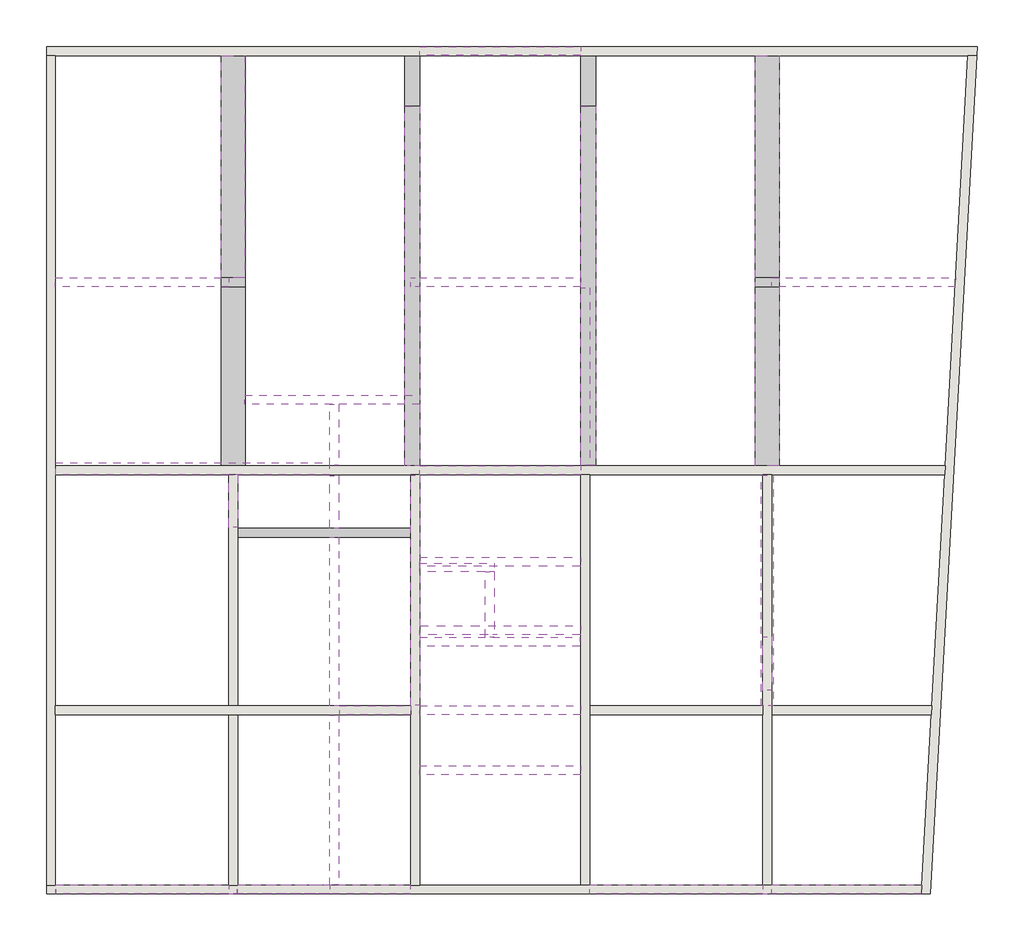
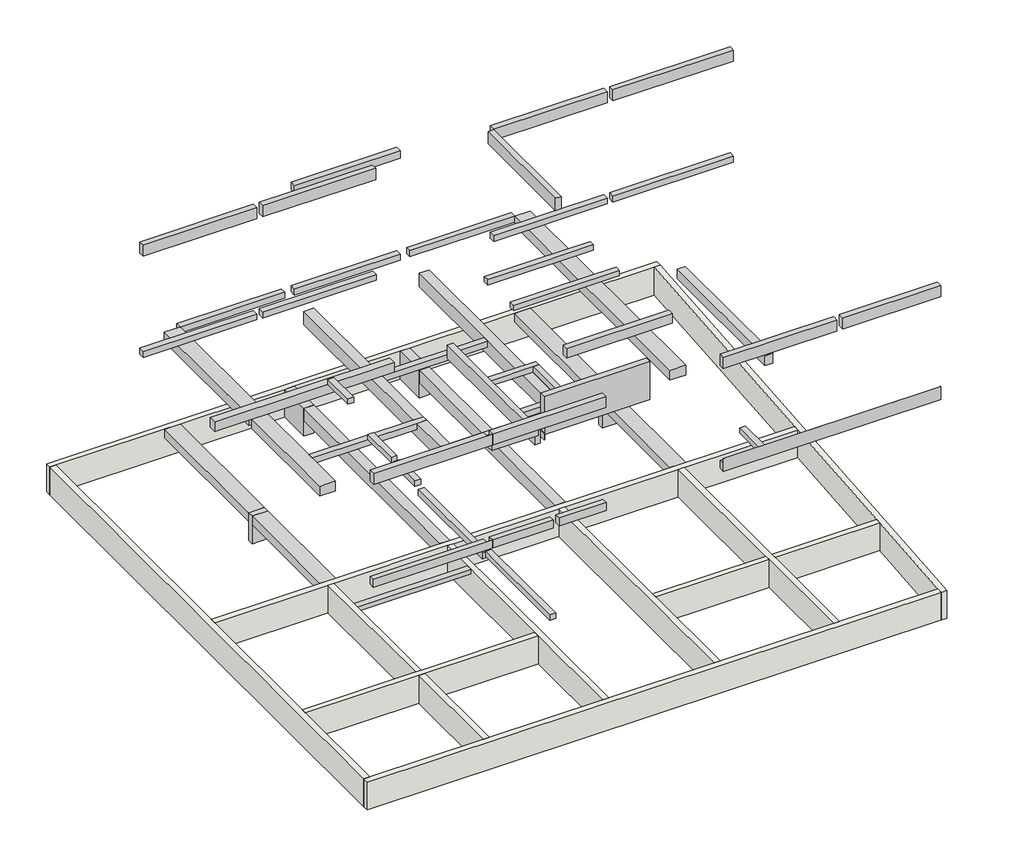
# One storey: 40 beams, 12 walls, 4 columns.
"""IFC4 building model written with IfcOpenShell, lengths in millimetres."""

from ifc_helpers import new_model, si_unit, frame, origin, place, context, project, spatial, polyline, outline, extrude, faceted_brep, element, save

model = new_model("IFC4")

# Units and contexts
model_context = context("Model", 3, world=origin())
ifc_project = project(units=[si_unit("LENGTHUNIT", "METRE", prefix="MILLI")], contexts=[model_context])

# Site, building, storey
site = spatial("IfcSite", under=ifc_project)
building = spatial("IfcBuilding", under=site)
storey = spatial("IfcBuildingStorey", under=building, Name="ARCHI fondations", Elevation=-3545.0)

# Beams
placement = place(None, origin())
element("IfcBeam", 1, ObjectType="Béton - Poutre rectangulaire : 15 x 117", at=placement, inside=storey, context=model_context, shape_type="SweptSolid", body=[
    extrude(outline(polyline([(3625.0, -1030.0228675), (2770.0, -1030.0228675), (2770.0, -1020.0228675), (2630.0, -1020.0228675), (2630.0, -1030.0228675), (2455.0, -1030.0228675), (2455.0, -1020.0228675), (2595.0, -1020.0228675), (2595.0, 1669.9771325), (3625.0, 1669.9771325), (3625.0, -1030.0228675)])), frame((0.0, -4933.2888028, 0.0), z_axis=(0.0, 1.0, 0.0), x_axis=(0.0, 0.0, 1.0)), (0.0, 0.0, 1.0), 150.0),
])
element("IfcBeam", 2, ObjectType="Béton - Poutre rectangulaire : 15 x 14", at=placement, inside=storey, context=model_context, shape_type="SweptSolid", body=[
    extrude(outline(polyline([(-2380.0228675, -753.2888028), (-2530.0228675, -753.2888028), (-2530.0228675, 271.7111972), (-2380.0228675, 271.7111972), (-2380.0228675, -753.2888028)])), frame((0.0, 0.0, -170.0), z_axis=(0.0, 0.0, 1.0), x_axis=(1.0, 0.0, 0.0)), (0.0, 0.0, 1.0), 140.0),
])
element("IfcBeam", 3, ObjectType="Béton - Poutre rectangulaire : 15 x 14", at=placement, inside=storey, context=model_context, shape_type="SweptSolid", body=[
    extrude(outline(polyline([(-2530.0228675, -923.2888028), (-2380.0228675, -923.2888028), (-2380.0228675, -1808.2888028), (-2530.0228675, -1808.2888028), (-2530.0228675, -923.2888028)])), frame((0.0, 0.0, -170.0), z_axis=(0.0, 0.0, 1.0), x_axis=(1.0, 0.0, 0.0)), (0.0, 0.0, 1.0), 140.0),
])
element("IfcBeam", 4, ObjectType="Béton - Poutre rectangulaire : 15 x 14", at=placement, inside=storey, context=model_context, shape_type="SweptSolid", body=[
    extrude(outline(polyline([(4720.5726427, -3623.2888028), (4870.5726427, -3623.2888028), (4870.5726427, -4523.2888028), (4720.5726427, -4523.2888028), (4720.5726427, -3623.2888028)])), frame((0.0, 0.0, -170.0), z_axis=(0.0, 0.0, 1.0), x_axis=(1.0, 0.0, 0.0)), (0.0, 0.0, 1.0), 140.0),
])
element("IfcBeam", 5, ObjectType="Béton - Poutre rectangulaire : 15 x 14", at=placement, inside=storey, context=model_context, shape_type="SweptSolid", body=[
    extrude(outline(polyline([(-2380.0228675, -7778.2888028), (-2530.0228675, -7778.2888028), (-2530.0228675, -4938.2888028), (-2380.0228675, -4938.2888028), (-2380.0228675, -7778.2888028)])), frame((0.0, 0.0, -170.0), z_axis=(0.0, 0.0, 1.0), x_axis=(1.0, 0.0, 0.0)), (0.0, 0.0, 1.0), 140.0),
])
element("IfcBeam", 6, ObjectType="Béton - Poutre rectangulaire : 15 x 14", at=placement, inside=storey, context=model_context, shape_type="SweptSolid", body=[
    extrude(outline(polyline([(-4080.0228675, -1788.2888028), (-4230.0228675, -1788.2888028), (-4230.0228675, -908.2888028), (-4080.0228675, -908.2888028), (-4080.0228675, -1788.2888028)])), frame((0.0, 0.0, 2630.0), z_axis=(0.0, 0.0, 1.0), x_axis=(1.0, 0.0, 0.0)), (0.0, 0.0, 1.0), 140.0),
])
element("IfcBeam", 7, ObjectType="Béton - Poutre rectangulaire : 15 x 14", at=placement, inside=storey, context=model_context, shape_type="SweptSolid", body=[
    extrude(outline(polyline([(-2370.0228675, -4933.2888028), (-2370.0228675, -4783.2888028), (-1180.0228675, -4783.2888028), (-1180.0228675, -4933.2888028), (-2370.0228675, -4933.2888028)])), frame((0.0, 0.0, 2630.0), z_axis=(0.0, 0.0, 1.0), x_axis=(1.0, 0.0, 0.0)), (0.0, 0.0, 1.0), 140.0),
])
element("IfcBeam", 8, ObjectType="Béton - Poutre rectangulaire : 15 x 14", at=placement, inside=storey, context=model_context, shape_type="Brep", body=[
    faceted_brep([(219.9771325, -2538.2888028, 2595.0), (219.9771325, -2388.2888028, 2595.0), (-1030.0228675, -2388.2888028, 2595.0), (-1030.0228675, -2538.2888028, 2595.0), (69.9771325, -2538.2888028, 2595.0), (219.9771325, -2538.2888028, 2455.0), (-1030.0228675, -2538.2888028, 2455.0), (69.9771325, -2538.2888028, 2455.0), (219.9771325, -2388.2888028, 2455.0), (-1030.0228675, -2388.2888028, 2455.0)], [[[0, 1, 2, 3, 4]], [[5, 0, 4, 3, 6, 7]], [[8, 5, 7, 6, 9]], [[1, 8, 9, 2]], [[3, 2, 9, 6]], [[1, 0, 5, 8]]]),
])
element("IfcBeam", 9, ObjectType="Béton - Poutre rectangulaire : 15 x 14", at=placement, inside=storey, context=model_context, shape_type="SweptSolid", body=[
    extrude(outline(polyline([(69.9771325, -2538.2888028), (219.9771325, -2538.2888028), (219.9771325, -3634.9362614), (69.9771325, -3634.9362614), (69.9771325, -2538.2888028)])), frame((0.0, 0.0, 2455.0), z_axis=(0.0, 0.0, 1.0), x_axis=(1.0, 0.0, 0.0)), (0.0, 0.0, 1.0), 140.0),
])
element("IfcBeam", 10, ObjectType="Béton - Poutre rectangulaire : 15 x 14", at=placement, inside=storey, context=model_context, shape_type="Brep", body=[
    faceted_brep([(-1030.0228675, -3440.7888028, 5270.0), (-1030.0228675, -3590.7888028, 5270.0), (119.9771325, -3590.7888028, 5270.0), (269.9771325, -3590.7888028, 5270.0), (1669.9771325, -3590.7888028, 5270.0), (1669.9771325, -3440.7888028, 5270.0), (119.9771325, -3440.7888028, 5270.0), (-1030.0228675, -3590.7888028, 5130.0), (1669.9771325, -3590.7888028, 5130.0), (-1030.0228675, -3440.7888028, 5130.0), (1669.9771325, -3440.7888028, 5130.0)], [[[0, 1, 2, 3, 4, 5, 6]], [[1, 7, 8, 4, 3, 2]], [[7, 9, 10, 8]], [[9, 0, 6, 5, 10]], [[1, 0, 9, 7]], [[5, 4, 8, 10]]]),
])
element("IfcBeam", 11, ObjectType="Béton - Poutre rectangulaire : 15 x 14", at=placement, inside=storey, context=model_context, shape_type="Brep", body=[
    faceted_brep([(-1030.0228675, -2290.7888028, 5270.0), (-1030.0228675, -2440.7888028, 5270.0), (269.9771325, -2440.7888028, 5270.0), (1669.9771325, -2440.7888028, 5270.0), (1669.9771325, -2290.7888028, 5270.0), (269.9771325, -2290.7888028, 5270.0), (-1030.0228675, -2440.7888028, 5130.0), (1669.9771325, -2440.7888028, 5130.0), (-1030.0228675, -2290.7888028, 5130.0), (1669.9771325, -2290.7888028, 5130.0)], [[[0, 1, 2, 3, 4, 5]], [[1, 6, 7, 3, 2]], [[6, 8, 9, 7]], [[8, 0, 5, 4, 9]], [[1, 0, 8, 6]], [[4, 3, 7, 9]]]),
])
element("IfcBeam", 12, ObjectType="Béton - Poutre rectangulaire : 15 x 30", at=placement, inside=storey, context=model_context, shape_type="SweptSolid", body=[
    extrude(outline(polyline([(-1185.0228675, -1808.2888028), (-1185.0228675, -1958.2888028), (-4075.0228675, -1958.2888028), (-4075.0228675, -1808.2888028), (-1185.0228675, -1808.2888028)])), frame((0.0, 0.0, -2925.0), z_axis=(0.0, 0.0, 1.0), x_axis=(1.0, 0.0, 0.0)), (0.0, 0.0, 1.0), 130.0),
])
element("IfcBeam", 13, ObjectType="Béton - Poutre rectangulaire : 15 x 30", at=placement, inside=storey, context=model_context, shape_type="Brep", body=[
    faceted_brep([(-1180.0228675, 2241.7111972, -330.0), (-1030.0228675, 2241.7111972, -330.0), (1669.9771325, 2241.7111972, -330.0), (1669.9771325, 2241.7111972, -170.0), (-1030.0228675, 2241.7111972, -170.0), (-1180.0228675, 2241.7111972, -170.0), (-1180.0228675, 2391.7111972, -330.0), (-1030.0228675, 2391.7111972, -330.0), (1669.9771325, 2391.7111972, -330.0), (-1180.0228675, 2391.7111972, -170.0), (-1030.0228675, 2391.7111972, -170.0), (1669.9771325, 2391.7111972, -170.0)], [[[0, 1, 2, 3, 4, 5]], [[0, 6, 7, 8, 2, 1]], [[8, 7, 6, 9, 10, 11]], [[6, 0, 5, 9]], [[2, 8, 11, 3]], [[5, 4, 3, 11, 10, 9]]]),
])
element("IfcBeam", 14, ObjectType="Béton - Poutre rectangulaire : 15 x 30", at=placement, inside=storey, context=model_context, shape_type="Brep", body=[
    faceted_brep([(-1030.0228675, 421.7111972, -330.0), (-1280.0228675, 421.7111972, -330.0), (-3955.0228675, 421.7111972, -330.0), (-3955.0228675, 421.7111972, -170.0), (-1280.0228675, 421.7111972, -170.0), (-1030.0228675, 421.7111972, -170.0), (-3955.0228675, 271.7111972, -330.0), (-1030.0228675, 271.7111972, -330.0), (-1280.0228675, 271.7111972, -330.0), (-1030.0228675, 271.7111972, -170.0), (-1280.0228675, 271.7111972, -170.0), (-3955.0228675, 271.7111972, -170.0)], [[[0, 1, 2, 3, 4, 5]], [[6, 2, 1, 0, 7, 8]], [[6, 8, 7, 9, 10, 11]], [[2, 6, 11, 3]], [[7, 0, 5, 9]], [[5, 4, 3, 11, 10, 9]]]),
])
element("IfcBeam", 15, ObjectType="Béton - Poutre rectangulaire : 15 x 30", at=placement, inside=storey, context=model_context, shape_type="SweptSolid", body=[
    extrude(outline(polyline([(1919.9771325, 6116.7111972), (1919.9771325, 6266.7111972), (4595.5726427, 6266.7111972), (4595.5726427, 6116.7111972), (1919.9771325, 6116.7111972)])), frame((0.0, 0.0, -330.0), z_axis=(0.0, 0.0, 1.0), x_axis=(1.0, 0.0, 0.0)), (0.0, 0.0, 1.0), 160.0),
    extrude(outline(polyline([(-3955.0228675, 6116.7111972), (-3955.0228675, 6266.7111972), (-1280.0228675, 6266.7111972), (-1280.0228675, 6116.7111972), (-3955.0228675, 6116.7111972)])), frame((0.0, 0.0, -330.0), z_axis=(0.0, 0.0, 1.0), x_axis=(1.0, 0.0, 0.0)), (0.0, 0.0, 1.0), 160.0),
    extrude(outline(polyline([(1669.9771325, 6266.7111972), (1669.9771325, 6116.7111972), (-1030.0228675, 6116.7111972), (-1030.0228675, 6266.7111972), (1669.9771325, 6266.7111972)])), frame((0.0, 0.0, -330.0), z_axis=(0.0, 0.0, 1.0), x_axis=(1.0, 0.0, 0.0)), (0.0, 0.0, 1.0), 160.0),
])
element("IfcBeam", 16, ObjectType="Béton - Poutre rectangulaire : 15 x 30", at=placement, inside=storey, context=model_context, shape_type="SweptSolid", body=[
    extrude(outline(polyline([(-1030.0228675, -908.2888028), (-1030.0228675, -758.2888028), (1669.9771325, -758.2888028), (1669.9771325, -908.2888028), (-1030.0228675, -908.2888028)])), frame((0.0, 0.0, -330.0), z_axis=(0.0, 0.0, 1.0), x_axis=(1.0, 0.0, 0.0)), (0.0, 0.0, 1.0), 160.0),
])
element("IfcBeam", 17, ObjectType="Béton - Poutre rectangulaire : 15 x 30", at=placement, inside=storey, context=model_context, shape_type="SweptSolid", body=[
    extrude(outline(polyline([(-2380.0228675, -4783.2888028), (-2530.0228675, -4783.2888028), (-2530.0228675, -1958.2888028), (-2380.0228675, -1958.2888028), (-2380.0228675, -4783.2888028)])), frame((0.0, 0.0, -330.0), z_axis=(0.0, 0.0, 1.0), x_axis=(1.0, 0.0, 0.0)), (0.0, 0.0, 1.0), 160.0),
])
element("IfcBeam", 18, ObjectType="Béton - Poutre rectangulaire : 15 x 30", at=placement, inside=storey, context=model_context, shape_type="SweptSolid", body=[
    extrude(outline(polyline([(2595.0, -1030.0228675), (2295.0, -1030.0228675), (2295.0, 1654.9771325), (2455.0, 1654.9771325), (2455.0, -1020.0228675), (2595.0, -1020.0228675), (2595.0, -1030.0228675)])), frame((0.0, -3784.9362614, 0.0), z_axis=(0.0, 1.0, 0.0), x_axis=(0.0, 0.0, 1.0)), (0.0, 0.0, 1.0), 150.0),
])
element("IfcBeam", 19, ObjectType="Béton - Poutre rectangulaire : 15 x 30", at=placement, inside=storey, context=model_context, shape_type="SweptSolid", body=[
    extrude(outline(polyline([(-4230.0228675, 2391.7111972), (-4230.0228675, 2241.7111972), (-7130.0228675, 2241.7111972), (-7130.0228675, 2391.7111972), (-4230.0228675, 2391.7111972)])), frame((0.0, 0.0, 2470.0), z_axis=(0.0, 0.0, 1.0), x_axis=(1.0, 0.0, 0.0)), (0.0, 0.0, 1.0), 160.0),
    extrude(outline(polyline([(-4080.0228675, 2241.7111972), (-4080.0228675, 2391.7111972), (-1180.0228675, 2391.7111972), (-1180.0228675, 2241.7111972), (-4080.0228675, 2241.7111972)])), frame((0.0, 0.0, 2470.0), z_axis=(0.0, 0.0, 1.0), x_axis=(1.0, 0.0, 0.0)), (0.0, 0.0, 1.0), 160.0),
])
element("IfcBeam", 20, ObjectType="Béton - Poutre rectangulaire : 15 x 30", at=placement, inside=storey, context=model_context, shape_type="SweptSolid", body=[
    extrude(outline(polyline([(7954.5541344, 2391.7111972), (7946.2241424, 2241.7111972), (4870.5726427, 2241.7111972), (4870.5726427, 2391.7111972), (7954.5541344, 2391.7111972)])), frame((0.0, 0.0, 2470.0), z_axis=(0.0, 0.0, 1.0), x_axis=(1.0, 0.0, 0.0)), (0.0, 0.0, 1.0), 160.0),
    extrude(outline(polyline([(4720.5726427, 2391.7111972), (4720.5726427, 2241.7111972), (1819.9771325, 2241.7111972), (1819.9771325, 2391.7111972), (4720.5726427, 2391.7111972)])), frame((0.0, 0.0, 2470.0), z_axis=(0.0, 0.0, 1.0), x_axis=(1.0, 0.0, 0.0)), (0.0, 0.0, 1.0), 160.0),
])
element("IfcBeam", 21, ObjectType="Béton - Poutre rectangulaire : 15 x 30", at=placement, inside=storey, context=model_context, shape_type="SweptSolid", body=[
    extrude(outline(polyline([(1824.9771325, 2241.7111972), (1824.9771325, 2391.7111972), (4720.5726427, 2391.7111972), (4720.5726427, 2241.7111972), (1824.9771325, 2241.7111972)])), frame((0.0, 0.0, 5200.0), z_axis=(0.0, 0.0, 1.0), x_axis=(1.0, 0.0, 0.0)), (0.0, 0.0, 1.0), 300.0),
    extrude(outline(polyline([(7954.5541344, 2391.7111972), (7946.2241424, 2241.7111972), (4870.5726427, 2241.7111972), (4870.5726427, 2391.7111972), (7954.5541344, 2391.7111972)])), frame((0.0, 0.0, 5200.0), z_axis=(0.0, 0.0, 1.0), x_axis=(1.0, 0.0, 0.0)), (0.0, 0.0, 1.0), 300.0),
])
element("IfcBeam", 22, ObjectType="Béton - Poutre rectangulaire : 15 x 30", at=placement, inside=storey, context=model_context, shape_type="SweptSolid", body=[
    extrude(outline(polyline([(-1190.0228675, 2391.7111972), (-1190.0228675, 2241.7111972), (-4080.0228675, 2241.7111972), (-4080.0228675, 2391.7111972), (-1190.0228675, 2391.7111972)])), frame((0.0, 0.0, 5200.0), z_axis=(0.0, 0.0, 1.0), x_axis=(1.0, 0.0, 0.0)), (0.0, 0.0, 1.0), 300.0),
    extrude(outline(polyline([(-7130.0228675, 2241.7111972), (-7130.0228675, 2391.7111972), (-4230.0228675, 2391.7111972), (-4230.0228675, 2241.7111972), (-7130.0228675, 2241.7111972)])), frame((0.0, 0.0, 5200.0), z_axis=(0.0, 0.0, 1.0), x_axis=(1.0, 0.0, 0.0)), (0.0, 0.0, 1.0), 300.0),
])
element("IfcBeam", 23, ObjectType="Béton - Poutre rectangulaire : 15 x 30", at=placement, inside=storey, context=model_context, shape_type="SweptSolid", body=[
    extrude(outline(polyline([(7375.5726427, -7783.2888028), (7375.5726427, -7933.2888028), (4870.5726427, -7933.2888028), (4870.5726427, -7783.2888028), (7375.5726427, -7783.2888028)])), frame((0.0, 0.0, 5200.0), z_axis=(0.0, 0.0, 1.0), x_axis=(1.0, 0.0, 0.0)), (0.0, 0.0, 1.0), 300.0),
    extrude(outline(polyline([(1820.5726427, -7933.2888028), (1820.5726427, -7783.2888028), (4720.5726427, -7783.2888028), (4720.5726427, -7933.2888028), (1820.5726427, -7933.2888028)])), frame((0.0, 0.0, 5200.0), z_axis=(0.0, 0.0, 1.0), x_axis=(1.0, 0.0, 0.0)), (0.0, 0.0, 1.0), 300.0),
])
element("IfcBeam", 24, ObjectType="Béton - Poutre rectangulaire : 15 x 30", at=placement, inside=storey, context=model_context, shape_type="SweptSolid", body=[
    extrude(outline(polyline([(-7120.0228675, -7933.2888028), (-7120.0228675, -7783.2888028), (-4230.0228675, -7783.2888028), (-4230.0228675, -7932.5195269), (-4080.0228675, -7932.5195269), (-4080.0228675, -7783.2888028), (-1185.0228675, -7783.2888028), (-1185.0228675, -7933.2888028), (-7120.0228675, -7933.2888028)])), frame((0.0, 0.0, 5200.0), z_axis=(0.0, 0.0, 1.0), x_axis=(1.0, 0.0, 0.0)), (0.0, 0.0, 1.0), 300.0),
])
element("IfcBeam", 25, ObjectType="Béton - Poutre rectangulaire : 15 x 33", at=placement, inside=storey, context=model_context, shape_type="SweptSolid", body=[
    extrude(outline(polyline([(1819.9771325, -748.2888028), (1669.9771325, -748.2888028), (1669.9771325, 2226.7111972), (1819.9771325, 2226.7111972), (1819.9771325, -748.2888028)])), frame((0.0, 0.0, 5170.0), z_axis=(0.0, 0.0, 1.0), x_axis=(1.0, 0.0, 0.0)), (0.0, 0.0, 1.0), 330.0),
])
element("IfcBeam", 26, ObjectType="Béton - Poutre rectangulaire : 15 x 35", at=placement, inside=storey, context=model_context, shape_type="SweptSolid", body=[
    extrude(outline(polyline([(1669.9771325, 6266.7111972), (1669.9771325, 6116.7111972), (-1030.0228675, 6116.7111972), (-1030.0228675, 6266.7111972), (1669.9771325, 6266.7111972)])), frame((0.0, 0.0, 2420.0), z_axis=(0.0, 0.0, 1.0), x_axis=(1.0, 0.0, 0.0)), (0.0, 0.0, 1.0), 210.0),
])
element("IfcBeam", 27, ObjectType="Béton - Poutre rectangulaire : 15 x 35", at=placement, inside=storey, context=model_context, shape_type="SweptSolid", body=[
    extrude(outline(polyline([(-7125.0228675, -7933.2888028), (-7125.0228675, -7783.2888028), (-4230.7072273, -7783.2888028), (-4230.7072273, -7932.248718), (-4080.7072273, -7932.248718), (-4080.7072273, -7783.2888028), (-2530.0228675, -7783.2888028), (-2530.0228675, -7933.2888028), (-7125.0228675, -7933.2888028)])), frame((0.0, 0.0, 2420.0), z_axis=(0.0, 0.0, 1.0), x_axis=(1.0, 0.0, 0.0)), (0.0, 0.0, 1.0), 210.0),
    extrude(outline(polyline([(-1180.0228675, -7783.2888028), (-1180.0228675, -7933.2888028), (-2380.0228675, -7933.2888028), (-2380.0228675, -7783.2888028), (-1180.0228675, -7783.2888028)])), frame((0.0, 0.0, 2420.0), z_axis=(0.0, 0.0, 1.0), x_axis=(1.0, 0.0, 0.0)), (0.0, 0.0, 1.0), 210.0),
])
element("IfcBeam", 28, ObjectType="Béton - Poutre rectangulaire : 15 x 35", at=placement, inside=storey, context=model_context, shape_type="Brep", body=[
    faceted_brep([(7375.5726427, -7933.2888028, 2770.0), (7375.5726427, -7933.2888028, 2420.0), (7375.5726427, -7783.2888028, 2420.0), (7375.5726427, -7783.2888028, 2630.0), (7375.5726427, -7931.4125381, 2630.0), (7375.5726427, -7931.4125381, 2770.0), (4870.5726427, -7931.4125381, 2770.0), (4870.5726427, -7932.4917142, 2770.0), (4720.5726427, -7932.4917142, 2770.0), (4720.5726427, -7931.4125381, 2770.0), (1819.9771325, -7931.4125381, 2770.0), (1819.9771325, -7933.2888028, 2770.0), (1819.9771325, -7933.2888028, 2420.0), (1819.9771325, -7783.2888028, 2420.0), (4720.5726427, -7783.2888028, 2420.0), (4720.5726427, -7932.4917142, 2420.0), (4870.5726427, -7932.4917142, 2420.0), (4870.5726427, -7783.2888028, 2420.0), (4870.5726427, -7783.2888028, 2630.0), (4870.5726427, -7931.4125381, 2630.0), (1819.9771325, -7931.4125381, 2630.0), (1819.9771325, -7783.2888028, 2630.0), (4720.5726427, -7783.2888028, 2630.0), (4720.5726427, -7931.4125381, 2630.0)], [[[0, 1, 2, 3, 4, 5]], [[0, 5, 6, 7, 8, 9, 10, 11]], [[1, 0, 11, 12]], [[2, 1, 12, 13, 14, 15, 16, 17]], [[3, 2, 17, 18]], [[4, 3, 18, 19]], [[5, 4, 19, 6]], [[11, 10, 20, 21, 13, 12]], [[8, 15, 14, 22, 23, 9]], [[15, 8, 7, 16]], [[16, 7, 6, 19, 18, 17]], [[13, 21, 22, 14]], [[21, 20, 23, 22]], [[20, 10, 9, 23]]]),
])
element("IfcBeam", 29, ObjectType="Béton - Poutre rectangulaire : 15 x 40", at=placement, inside=storey, context=model_context, shape_type="SweptSolid", body=[
    extrude(outline(polyline([(1669.9771325, -5933.2888028), (-1030.0228675, -5933.2888028), (-1030.0228675, -5783.2888028), (1669.9771325, -5783.2888028), (1669.9771325, -5933.2888028)])), frame((0.0, 0.0, 5270.0), z_axis=(0.0, 0.0, 1.0), x_axis=(1.0, 0.0, 0.0)), (0.0, 0.0, 1.0), 260.0),
])
element("IfcBeam", 30, ObjectType="Béton - Poutre rectangulaire : 15 x 50", at=placement, inside=storey, context=model_context, shape_type="SweptSolid", body=[
    extrude(outline(polyline([(-1180.0228675, -913.2888028), (-1030.0228675, -913.2888028), (-1030.0228675, -4768.2888028), (-1180.0228675, -4768.2888028), (-1180.0228675, -913.2888028)])), frame((0.0, 0.0, 2270.0), z_axis=(0.0, 0.0, 1.0), x_axis=(1.0, 0.0, 0.0)), (0.0, 0.0, 1.0), 360.0),
])
element("IfcBeam", 31, ObjectType="Béton - Poutre rectangulaire : 20 x 40", at=placement, inside=storey, context=model_context, shape_type="Brep", body=[
    faceted_brep([(4895.5726427, -913.2888028, 2370.0), (4695.5726427, -913.2888028, 2370.0), (4695.5726427, -913.2888028, 2630.0), (4895.5726427, -913.2888028, 2630.0), (4895.5726427, -4783.2888028, 2370.0), (4895.5726427, -4783.2888028, 2630.0), (4739.9771325, -4783.2888028, 2370.0), (4695.5726427, -4783.2888028, 2370.0), (4695.5726427, -4783.2888028, 2630.0)], [[[0, 1, 2, 3]], [[4, 0, 3, 5]], [[1, 0, 4, 6, 7]], [[1, 7, 8, 2]], [[4, 5, 8, 7, 6]], [[3, 2, 8, 5]]]),
])
element("IfcBeam", 32, ObjectType="Béton - Poutre rectangulaire : 20 x 40", at=placement, inside=storey, context=model_context, shape_type="SweptSolid", body=[
    extrude(outline(polyline([(-2540.0228675, -708.2888028), (-2540.0228675, -908.2888028), (-7125.0228675, -908.2888028), (-7125.0228675, -708.2888028), (-2540.0228675, -708.2888028)])), frame((0.0, 0.0, 2370.0), z_axis=(0.0, 0.0, 1.0), x_axis=(1.0, 0.0, 0.0)), (0.0, 0.0, 1.0), 260.0),
])
element("IfcBeam", 33, ObjectType="Béton - Poutre rectangulaire : 25 x 50", at=placement, inside=storey, context=model_context, shape_type="SweptSolid", body=[
    extrude(outline(polyline([(-1030.0228675, -752.7360346), (-1280.0228675, -752.7360346), (-1280.0228675, 5266.8149663), (-1030.0228675, 5266.8149663), (-1030.0228675, -752.7360346)])), frame((0.0, 0.0, -3125.0), z_axis=(0.0, 0.0, 1.0), x_axis=(1.0, 0.0, 0.0)), (0.0, 0.0, 1.0), 330.0),
])
element("IfcBeam", 34, ObjectType="Béton - Poutre rectangulaire : 25 x 50", at=placement, inside=storey, context=model_context, shape_type="SweptSolid", body=[
    extrude(outline(polyline([(1919.9771325, -758.2888028), (1669.9771325, -758.2888028), (1669.9771325, 5266.7111972), (1919.9771325, 5266.7111972), (1919.9771325, -758.2888028)])), frame((0.0, 0.0, -3125.0), z_axis=(0.0, 0.0, 1.0), x_axis=(1.0, 0.0, 0.0)), (0.0, 0.0, 1.0), 330.0),
])
element("IfcBeam", 35, ObjectType="Béton - Poutre rectangulaire : 25 x 50", at=placement, inside=storey, context=model_context, shape_type="Brep", body=[
    faceted_brep([(1669.9771325, -753.2888028, -530.0), (1919.9771325, -753.2888028, -530.0), (1919.9771325, -753.2888028, -170.0), (1669.9771325, -753.2888028, -170.0), (1669.9771325, 5266.7111972, -530.0), (1669.9771325, 2241.7111972, -170.0), (1669.9771325, 2391.7111972, -170.0), (1669.9771325, 5266.7111972, -170.0), (1919.9771325, 5266.7111972, -530.0), (1919.9771325, 5266.7111972, -170.0)], [[[0, 1, 2, 3]], [[4, 0, 3, 5, 6, 7]], [[1, 0, 4, 8]], [[1, 8, 9, 2]], [[8, 4, 7, 9]], [[3, 2, 9, 7, 6, 5]]]),
])
element("IfcBeam", 36, ObjectType="Béton - Poutre rectangulaire : 25 x 50", at=placement, inside=storey, context=model_context, shape_type="Brep", body=[
    faceted_brep([(-1280.0228675, 271.7111972, -330.0), (-1280.0228675, 421.7111972, -330.0), (-1280.0228675, 421.7111972, -170.0), (-1280.0228675, 5266.7111972, -170.0), (-1280.0228675, 5266.7111972, -530.0), (-1280.0228675, -758.2888028, -530.0), (-1280.0228675, -758.2888028, -170.0), (-1280.0228675, 271.7111972, -170.0), (-1030.0228675, 5266.7111972, -530.0), (-1030.0228675, -758.2888028, -530.0), (-1030.0228675, 2391.7111972, -330.0), (-1030.0228675, 2241.7111972, -330.0), (-1030.0228675, 2241.7111972, -170.0), (-1030.0228675, 421.7111972, -170.0), (-1030.0228675, 421.7111972, -330.0), (-1030.0228675, 271.7111972, -330.0), (-1030.0228675, 271.7111972, -170.0), (-1030.0228675, -758.2888028, -170.0), (-1030.0228675, 5266.7111972, -170.0), (-1030.0228675, 2391.7111972, -170.0), (-1180.0228675, 2241.7111972, -330.0), (-1180.0228675, 2241.7111972, -170.0), (-1180.0228675, 2391.7111972, -330.0), (-1180.0228675, 2391.7111972, -170.0), (-1182.4157758, -758.2888028, -170.0)], [[[0, 1, 2, 3, 4, 5, 6, 7]], [[4, 8, 9, 5]], [[10, 11, 12, 13, 14, 15, 16, 17, 9, 8, 18, 19]], [[8, 4, 3, 18]], [[11, 20, 21, 12]], [[22, 20, 11, 10]], [[22, 10, 19, 23]], [[20, 22, 23, 21]], [[1, 14, 13, 2]], [[14, 1, 0, 15]], [[15, 0, 7, 16]], [[6, 5, 9, 17, 24]], [[3, 2, 13, 12, 21, 23, 19, 18]], [[7, 6, 24, 17, 16]]]),
])
element("IfcBeam", 37, ObjectType="Béton - Poutre rectangulaire : 40 x 40", at=placement, inside=storey, context=model_context, shape_type="SweptSolid", body=[
    extrude(outline(polyline([(-4350.8374999, 6111.7111972), (-3950.8374999, 6111.7111972), (-3950.8374999, 2391.7111972), (-4350.8374999, 2391.7111972), (-4350.8374999, 6111.7111972)])), frame((0.0, 0.0, -3025.0), z_axis=(0.0, 0.0, 1.0), x_axis=(1.0, 0.0, 0.0)), (0.0, 0.0, 1.0), 230.0),
    extrude(outline(polyline([(-3950.8374999, -758.2888028), (-4350.8374999, -758.2888028), (-4350.8374999, 2241.7111972), (-3950.8374999, 2241.7111972), (-3950.8374999, -758.2888028)])), frame((0.0, 0.0, -3025.0), z_axis=(0.0, 0.0, 1.0), x_axis=(1.0, 0.0, 0.0)), (0.0, 0.0, 1.0), 230.0),
])
element("IfcBeam", 38, ObjectType="Béton - Poutre rectangulaire : 40 x 40", at=placement, inside=storey, context=model_context, shape_type="SweptSolid", body=[
    extrude(outline(polyline([(4595.5726427, 6111.7111972), (4995.5726427, 6111.7111972), (4995.5726427, 2391.7111972), (4595.5726427, 2391.7111972), (4595.5726427, 6111.7111972)])), frame((0.0, 0.0, -3025.0), z_axis=(0.0, 0.0, 1.0), x_axis=(1.0, 0.0, 0.0)), (0.0, 0.0, 1.0), 230.0),
    extrude(outline(polyline([(4595.5726427, 2241.7111972), (4995.5726427, 2241.7111972), (4995.5726427, -758.2888028), (4595.5726427, -758.2888028), (4595.5726427, 2241.7111972)])), frame((0.0, 0.0, -3025.0), z_axis=(0.0, 0.0, 1.0), x_axis=(1.0, 0.0, 0.0)), (0.0, 0.0, 1.0), 230.0),
])
element("IfcBeam", 39, ObjectType="Béton - Poutre rectangulaire : 40 x 40", at=placement, inside=storey, context=model_context, shape_type="Brep", body=[
    faceted_brep([(-4355.0228675, -758.2888028, -430.0), (-4355.0228675, -758.2888028, -170.0), (-4355.0228675, 2241.7111972, -170.0), (-4355.0228675, 2241.7111972, -430.0), (-3955.0228675, -758.2888028, -430.0), (-3955.0228675, 2241.7111972, -430.0), (-3955.0228675, -758.2888028, -170.0), (-3955.0228675, 2241.7111972, -170.0), (-3955.0228675, 421.7111972, -170.0), (-3955.0228675, 271.7111972, -170.0)], [[[0, 1, 2, 3]], [[4, 0, 3, 5]], [[6, 4, 5, 7, 8, 9]], [[1, 0, 4, 6]], [[3, 2, 7, 5]], [[1, 6, 9, 8, 7, 2]]]),
    faceted_brep([(-3955.0228675, 6116.7111972, -170.0), (-4355.0228675, 6116.7111972, -170.0), (-4355.0228675, 2391.7111972, -170.0), (-3955.0228675, 2391.7111972, -170.0), (-4355.0228675, 6116.7111972, -430.0), (-3955.0228675, 6116.7111972, -430.0), (-4355.0228675, 2391.7111972, -430.0), (-3955.0228675, 2391.7111972, -430.0)], [[[0, 1, 2, 3]], [[4, 1, 0, 5]], [[2, 6, 7, 3]], [[1, 4, 6, 2]], [[4, 5, 7, 6]], [[5, 0, 3, 7]]]),
])
element("IfcBeam", 40, ObjectType="Béton - Poutre rectangulaire : 40 x 40", at=placement, inside=storey, context=model_context, shape_type="Brep", body=[
    faceted_brep([(4595.5726427, -758.2888028, -430.0), (4595.5726427, -758.2888028, -170.0), (4595.5726427, 6116.7111972, -170.0), (4595.5726427, 6116.7111972, -430.0), (4595.5726427, 2391.7111972, -430.0), (4595.5726427, 2241.7111972, -430.0), (4995.5726427, -758.2888028, -430.0), (4995.5726427, 6116.7111972, -430.0), (4995.5726427, 2391.7111972, -430.0), (4995.5726427, 2241.7111972, -430.0), (4995.5726427, -758.2888028, -170.0), (4995.5726427, 6116.7111972, -170.0)], [[[0, 1, 2, 3, 4, 5]], [[6, 0, 5, 4, 3, 7, 8, 9]], [[10, 6, 9, 8, 7, 11]], [[1, 0, 6, 10]], [[1, 10, 11, 2]], [[3, 2, 11, 7]]]),
])

# Columns
element("IfcColumn", 41, ObjectType="Béton - Rectangulaire - Poteau : 25 x 100", at=placement, inside=storey, context=model_context, shape_type="SweptSolid", body=[
    extrude(outline(polyline([(1919.9771325, 5266.7111972), (1669.9771325, 5266.7111972), (1669.9771325, 6116.7111972), (1919.9771325, 6116.7111972), (1919.9771325, 5266.7111972)])), frame((0.0, 0.0, -3545.0), z_axis=(0.0, 0.0, 1.0), x_axis=(1.0, 0.0, 0.0)), (0.0, 0.0, 1.0), 750.0),
])
element("IfcColumn", 42, ObjectType="Béton - Rectangulaire - Poteau : 25 x 100", at=placement, inside=storey, context=model_context, shape_type="SweptSolid", body=[
    extrude(outline(polyline([(-1030.0228675, 5266.8149663), (-1280.0228675, 5266.8149663), (-1280.0228675, 6116.7111972), (-1030.0228675, 6116.7111972), (-1030.0228675, 5266.8149663)])), frame((0.0, 0.0, -3545.0), z_axis=(0.0, 0.0, 1.0), x_axis=(1.0, 0.0, 0.0)), (0.0, 0.0, 1.0), 750.0),
])
element("IfcColumn", 43, ObjectType="Béton - Rectangulaire - Poteau : 40 x 15", at=placement, inside=storey, context=model_context, shape_type="Brep", body=[
    faceted_brep([(-3950.8374999, 2391.7111972, -3545.0), (-3950.8374999, 2241.7111972, -3545.0), (-4350.8374999, 2241.7111972, -3545.0), (-4350.8374999, 2391.7111972, -3545.0), (-4350.8374999, 2391.7111972, -3025.0), (-4350.8374999, 2391.7111972, -2795.0), (-3950.8374999, 2391.7111972, -2795.0), (-3950.8374999, 2391.7111972, -3025.0), (-4350.8374999, 2241.7111972, -3025.0), (-4350.8374999, 2241.7111972, -2795.0), (-3950.8374999, 2241.7111972, -3025.0), (-3950.8374999, 2241.7111972, -2795.0)], [[[0, 1, 2, 3]], [[0, 3, 4, 5, 6, 7]], [[3, 2, 8, 9, 5, 4]], [[2, 1, 10, 11, 9, 8]], [[1, 0, 7, 6, 11, 10]], [[6, 5, 9, 11]]]),
])
element("IfcColumn", 44, ObjectType="Béton - Rectangulaire - Poteau : 40 x 15", at=placement, inside=storey, context=model_context, shape_type="Brep", body=[
    faceted_brep([(4995.5726427, 2391.7111972, -3545.0), (4995.5726427, 2241.7111972, -3545.0), (4595.5726427, 2241.7111972, -3545.0), (4595.5726427, 2391.7111972, -3545.0), (4595.5726427, 2391.7111972, -3025.0), (4595.5726427, 2391.7111972, -2795.0), (4995.5726427, 2391.7111972, -2795.0), (4995.5726427, 2391.7111972, -3025.0), (4595.5726427, 2241.7111972, -3025.0), (4595.5726427, 2241.7111972, -2795.0), (4995.5726427, 2241.7111972, -3025.0), (4995.5726427, 2241.7111972, -2795.0)], [[[0, 1, 2, 3]], [[0, 3, 4, 5, 6, 7]], [[3, 2, 8, 9, 5, 4]], [[2, 1, 10, 11, 9, 8]], [[1, 0, 7, 6, 11, 10]], [[6, 5, 9, 11]]]),
])

# Walls
element("IfcWall", 45, ObjectType="Générique - 150 mm", at=placement, inside=storey, context=model_context, shape_type="Brep", body=[
    faceted_brep([(-7280.0228675, 6116.7111972, -3545.0), (-7130.0228675, 6116.7111972, -3545.0), (-1280.0228675, 6116.7111972, -3545.0), (-1030.0228675, 6116.7111972, -3545.0), (1669.9771325, 6116.7111972, -3545.0), (1919.9771325, 6116.7111972, -3545.0), (8161.4156042, 6116.7111972, -3545.0), (8311.6467221, 6116.7111972, -3545.0), (8311.6467221, 6116.7111972, -2795.0), (8161.4156042, 6116.7111972, -2795.0), (1919.9771325, 6116.7111972, -2795.0), (1669.9771325, 6116.7111972, -2795.0), (-1030.0228675, 6116.7111972, -2795.0), (-1280.0228675, 6116.7111972, -2795.0), (-7130.0228675, 6116.7111972, -2795.0), (-7280.0228675, 6116.7111972, -2795.0), (-7280.0228675, 6266.7111972, -3545.0), (-7280.0228675, 6266.7111972, -2795.0), (8319.9767141, 6266.7111972, -2795.0), (8319.9767141, 6266.7111972, -3545.0)], [[[0, 1, 2, 3, 4, 5, 6, 7, 8, 9, 10, 11, 12, 13, 14, 15]], [[16, 17, 18, 19]], [[7, 6, 5, 4, 3, 2, 1, 0, 16, 19]], [[8, 7, 19, 18]], [[0, 15, 17, 16]], [[15, 14, 13, 12, 11, 10, 9, 8, 18, 17]]]),
])
element("IfcWall", 46, ObjectType="Générique - 150 mm", at=placement, inside=storey, context=model_context, shape_type="Brep", body=[
    faceted_brep([(8161.4156042, 6116.7111972, -3545.0), (7779.6243009, -758.2888028, -3545.0), (7771.2943089, -908.2888028, -3545.0), (7556.102847, -4783.2888028, -3545.0), (7547.772855, -4933.2888028, -3545.0), (7389.5030056, -7783.2888028, -3545.0), (7381.1730135, -7933.2888028, -3545.0), (7381.1730135, -7933.2888028, -2795.0), (7389.5030056, -7783.2888028, -2795.0), (7547.772855, -4933.2888028, -2795.0), (7556.102847, -4783.2888028, -2795.0), (7771.2943089, -908.2888028, -2795.0), (7779.6243009, -758.2888028, -2795.0), (8161.4156042, 6116.7111972, -2795.0), (8311.6467221, 6116.7111972, -3545.0), (8311.6467221, 6116.7111972, -2795.0), (7531.4041314, -7933.2888028, -2795.0), (7531.4041314, -7933.2888028, -3545.0)], [[[0, 1, 2, 3, 4, 5, 6, 7, 8, 9, 10, 11, 12, 13]], [[14, 15, 16, 17]], [[6, 5, 4, 3, 2, 1, 0, 14, 17]], [[0, 13, 15, 14]], [[7, 6, 17, 16]], [[13, 12, 11, 10, 9, 8, 7, 16, 15]]]),
])
element("IfcWall", 47, ObjectType="Générique - 150 mm", at=placement, inside=storey, context=model_context, shape_type="Brep", body=[
    faceted_brep([(7389.5030056, -7783.2888028, -3545.0), (4870.5726427, -7783.2888028, -3545.0), (4720.5726427, -7783.2888028, -3545.0), (1819.9771325, -7783.2888028, -3545.0), (1669.9771325, -7783.2888028, -3545.0), (-1030.0228675, -7783.2888028, -3545.0), (-1180.0228675, -7783.2888028, -3545.0), (-4080.0228675, -7783.2888028, -3545.0), (-4230.0228675, -7783.2888028, -3545.0), (-7130.0228675, -7783.2888028, -3545.0), (-7280.0228675, -7783.2888028, -3545.0), (-7280.0228675, -7783.2888028, -2795.0), (-7130.0228675, -7783.2888028, -2795.0), (-4230.0228675, -7783.2888028, -2795.0), (-4080.0228675, -7783.2888028, -2795.0), (-1180.0228675, -7783.2888028, -2795.0), (-1030.0228675, -7783.2888028, -2795.0), (1669.9771325, -7783.2888028, -2795.0), (1819.9771325, -7783.2888028, -2795.0), (4720.5726427, -7783.2888028, -2795.0), (4870.5726427, -7783.2888028, -2795.0), (7389.5030056, -7783.2888028, -2795.0), (7381.1730135, -7933.2888028, -3545.0), (7381.1730135, -7933.2888028, -2795.0), (-7280.0228675, -7933.2888028, -2795.0), (-7280.0228675, -7933.2888028, -3545.0)], [[[0, 1, 2, 3, 4, 5, 6, 7, 8, 9, 10, 11, 12, 13, 14, 15, 16, 17, 18, 19, 20, 21]], [[22, 23, 24, 25]], [[10, 9, 8, 7, 6, 5, 4, 3, 2, 1, 0, 22, 25]], [[0, 21, 23, 22]], [[11, 10, 25, 24]], [[21, 20, 19, 18, 17, 16, 15, 14, 13, 12, 11, 24, 23]]]),
])
element("IfcWall", 48, ObjectType="Générique - 150 mm", at=placement, inside=storey, context=model_context, shape_type="Brep", body=[
    faceted_brep([(-7130.0228675, -7783.2888028, -3545.0), (-7130.0228675, -4933.2888028, -3545.0), (-7130.0228675, -4783.2888028, -3545.0), (-7130.0228675, -908.2888028, -3545.0), (-7130.0228675, -758.2888028, -3545.0), (-7130.0228675, 6116.7111972, -3545.0), (-7130.0228675, 6116.7111972, -2795.0), (-7130.0228675, -758.2888028, -2795.0), (-7130.0228675, -908.2888028, -2795.0), (-7130.0228675, -4783.2888028, -2795.0), (-7130.0228675, -4933.2888028, -2795.0), (-7130.0228675, -7783.2888028, -2795.0), (-7280.0228675, -7783.2888028, -3545.0), (-7280.0228675, -7783.2888028, -2795.0), (-7280.0228675, 6116.7111972, -2795.0), (-7280.0228675, 6116.7111972, -3545.0)], [[[0, 1, 2, 3, 4, 5, 6, 7, 8, 9, 10, 11]], [[12, 13, 14, 15]], [[5, 4, 3, 2, 1, 0, 12, 15]], [[6, 5, 15, 14]], [[0, 11, 13, 12]], [[11, 10, 9, 8, 7, 6, 14, 13]]]),
])
element("IfcWall", 49, ObjectType="Générique - 150 mm", at=placement, inside=storey, context=model_context, shape_type="Brep", body=[
    faceted_brep([(-7130.0228675, -908.2888028, -3545.0), (-4230.0228675, -908.2888028, -3545.0), (-4080.0228675, -908.2888028, -3545.0), (-1180.0228675, -908.2888028, -3545.0), (-1030.0228675, -908.2888028, -3545.0), (1669.9771325, -908.2888028, -3545.0), (1819.9771325, -908.2888028, -3545.0), (4720.5726427, -908.2888028, -3545.0), (4870.5726427, -908.2888028, -3545.0), (7771.2943089, -908.2888028, -3545.0), (7771.2943089, -908.2888028, -2795.0), (4870.5726427, -908.2888028, -2795.0), (4720.5726427, -908.2888028, -2795.0), (1819.9771325, -908.2888028, -2795.0), (1669.9771325, -908.2888028, -2795.0), (-1030.0228675, -908.2888028, -2795.0), (-1180.0228675, -908.2888028, -2795.0), (-4080.0228675, -908.2888028, -2795.0), (-4230.0228675, -908.2888028, -2795.0), (-7130.0228675, -908.2888028, -2795.0), (-7130.0228675, -758.2888028, -3545.0), (-7130.0228675, -758.2888028, -2795.0), (7779.6243009, -758.2888028, -2795.0), (7779.6243009, -758.2888028, -3545.0)], [[[0, 1, 2, 3, 4, 5, 6, 7, 8, 9, 10, 11, 12, 13, 14, 15, 16, 17, 18, 19]], [[20, 21, 22, 23]], [[9, 8, 7, 6, 5, 4, 3, 2, 1, 0, 20, 23]], [[10, 9, 23, 22]], [[0, 19, 21, 20]], [[19, 18, 17, 16, 15, 14, 13, 12, 11, 10, 22, 21]]]),
])
element("IfcWall", 50, ObjectType="Générique - 150 mm", at=placement, inside=storey, context=model_context, shape_type="Brep", body=[
    faceted_brep([(-1180.0228675, -908.2888028, -3545.0), (-1180.0228675, -4783.2888028, -3545.0), (-1180.0228675, -4933.2888028, -3545.0), (-1180.0228675, -7783.2888028, -3545.0), (-1180.0228675, -7783.2888028, -2795.0), (-1180.0228675, -4933.2888028, -2795.0), (-1180.0228675, -4783.2888028, -2795.0), (-1180.0228675, -908.2888028, -2795.0), (-1030.0228675, -908.2888028, -3545.0), (-1030.0228675, -908.2888028, -2795.0), (-1030.0228675, -7783.2888028, -2795.0), (-1030.0228675, -7783.2888028, -3545.0)], [[[0, 1, 2, 3, 4, 5, 6, 7]], [[8, 9, 10, 11]], [[3, 2, 1, 0, 8, 11]], [[0, 7, 9, 8]], [[4, 3, 11, 10]], [[7, 6, 5, 4, 10, 9]]]),
])
element("IfcWall", 51, ObjectType="Générique - 150 mm", at=placement, inside=storey, context=model_context, shape_type="Brep", body=[
    faceted_brep([(1819.9771325, -7783.2888028, -3545.0), (1819.9771325, -4933.2888028, -3545.0), (1819.9771325, -4783.2888028, -3545.0), (1819.9771325, -908.2888028, -3545.0), (1819.9771325, -908.2888028, -2795.0), (1819.9771325, -4783.2888028, -2795.0), (1819.9771325, -4933.2888028, -2795.0), (1819.9771325, -7783.2888028, -2795.0), (1669.9771325, -7783.2888028, -3545.0), (1669.9771325, -7783.2888028, -2795.0), (1669.9771325, -908.2888028, -2795.0), (1669.9771325, -908.2888028, -3545.0)], [[[0, 1, 2, 3, 4, 5, 6, 7]], [[8, 9, 10, 11]], [[3, 2, 1, 0, 8, 11]], [[4, 3, 11, 10]], [[0, 7, 9, 8]], [[7, 6, 5, 4, 10, 9]]]),
])
element("IfcWall", 52, ObjectType="Générique - 150 mm", at=placement, inside=storey, context=model_context, shape_type="Brep", body=[
    faceted_brep([(-7130.0228675, -4933.2888028, -3545.0), (-4230.0228675, -4933.2888028, -3545.0), (-4080.0228675, -4933.2888028, -3545.0), (-1180.0228675, -4933.2888028, -3545.0), (-1180.0228675, -4933.2888028, -2795.0), (-4080.0228675, -4933.2888028, -2795.0), (-4230.0228675, -4933.2888028, -2795.0), (-7130.0228675, -4933.2888028, -2795.0), (-7130.0228675, -4783.2888028, -3545.0), (-7130.0228675, -4783.2888028, -2795.0), (-4230.0228675, -4783.2888028, -2795.0), (-4080.0228675, -4783.2888028, -2795.0), (-1180.0228675, -4783.2888028, -2795.0), (-1180.0228675, -4783.2888028, -3545.0), (-4080.0228675, -4783.2888028, -3545.0), (-4230.0228675, -4783.2888028, -3545.0)], [[[0, 1, 2, 3, 4, 5, 6, 7]], [[8, 9, 10, 11, 12, 13, 14, 15]], [[3, 2, 1, 0, 8, 15, 14, 13]], [[0, 7, 9, 8]], [[4, 3, 13, 12]], [[7, 6, 5, 4, 12, 11, 10, 9]]]),
])
element("IfcWall", 53, ObjectType="Générique - 150 mm", at=placement, inside=storey, context=model_context, shape_type="SweptSolid", body=[
    extrude(outline(polyline([(-4080.0228675, -7783.2888028), (-4230.0228675, -7783.2888028), (-4230.0228675, -4933.2888028), (-4080.0228675, -4933.2888028), (-4080.0228675, -7783.2888028)])), frame((0.0, 0.0, -3545.0), z_axis=(0.0, 0.0, 1.0), x_axis=(1.0, 0.0, 0.0)), (0.0, 0.0, 1.0), 750.0),
    extrude(outline(polyline([(-4230.0228675, -908.2888028), (-4080.0228675, -908.2888028), (-4080.0228675, -4783.2888028), (-4230.0228675, -4783.2888028), (-4230.0228675, -908.2888028)])), frame((0.0, 0.0, -3545.0), z_axis=(0.0, 0.0, 1.0), x_axis=(1.0, 0.0, 0.0)), (0.0, 0.0, 1.0), 750.0),
])
element("IfcWall", 54, ObjectType="Générique - 150 mm", at=placement, inside=storey, context=model_context, shape_type="SweptSolid", body=[
    extrude(outline(polyline([(4720.5726427, -4933.2888028), (1819.9771325, -4933.2888028), (1819.9771325, -4783.2888028), (4720.5726427, -4783.2888028), (4720.5726427, -4933.2888028)])), frame((0.0, 0.0, -3545.0), z_axis=(0.0, 0.0, 1.0), x_axis=(1.0, 0.0, 0.0)), (0.0, 0.0, 1.0), 750.0),
])
element("IfcWall", 55, ObjectType="Générique - 150 mm", at=placement, inside=storey, context=model_context, shape_type="SweptSolid", body=[
    extrude(outline(polyline([(7547.772855, -4933.2888028), (4870.5726427, -4933.2888028), (4870.5726427, -4783.2888028), (7556.102847, -4783.2888028), (7547.772855, -4933.2888028)])), frame((0.0, 0.0, -3545.0), z_axis=(0.0, 0.0, 1.0), x_axis=(1.0, 0.0, 0.0)), (0.0, 0.0, 1.0), 750.0),
])
element("IfcWall", 56, ObjectType="Générique - 150 mm", at=placement, inside=storey, context=model_context, shape_type="Brep", body=[
    faceted_brep([(4720.5726427, -908.2888028, -3545.0), (4720.5726427, -4783.2888028, -3545.0), (4720.5726427, -4933.2888028, -3545.0), (4720.5726427, -7783.2888028, -3545.0), (4720.5726427, -7783.2888028, -2795.0), (4720.5726427, -4933.2888028, -2795.0), (4720.5726427, -4783.2888028, -2795.0), (4720.5726427, -908.2888028, -2795.0), (4870.5726427, -908.2888028, -3545.0), (4870.5726427, -908.2888028, -2795.0), (4870.5726427, -4783.2888028, -2795.0), (4870.5726427, -4933.2888028, -2795.0), (4870.5726427, -7783.2888028, -2795.0), (4870.5726427, -7783.2888028, -3545.0), (4870.5726427, -4933.2888028, -3545.0), (4870.5726427, -4783.2888028, -3545.0)], [[[0, 1, 2, 3, 4, 5, 6, 7]], [[8, 9, 10, 11, 12, 13, 14, 15]], [[3, 2, 1, 0, 8, 15, 14, 13]], [[0, 7, 9, 8]], [[4, 3, 13, 12]], [[7, 6, 5, 4, 12, 11, 10, 9]]]),
])

save(model, "model.ifc")
